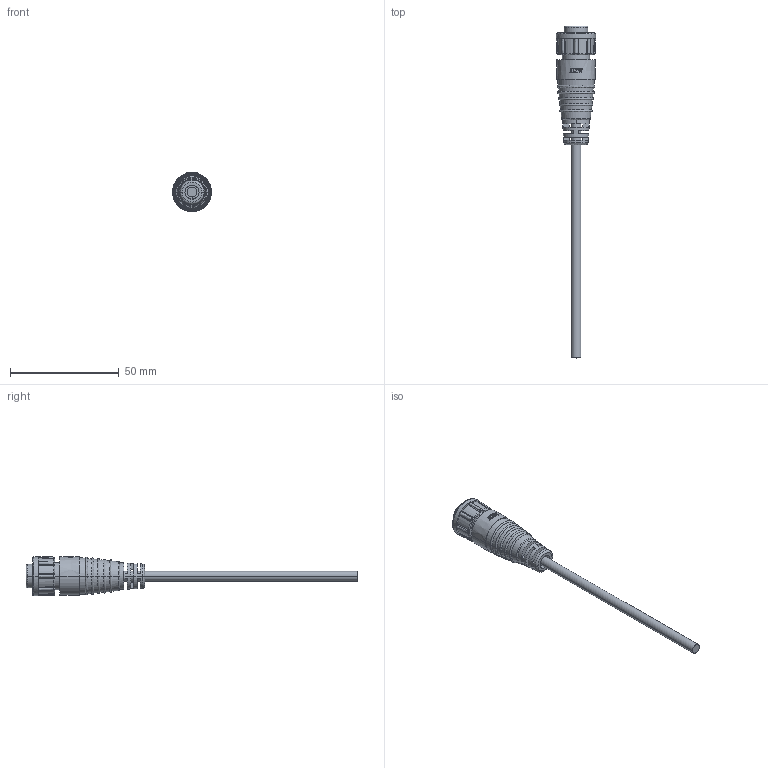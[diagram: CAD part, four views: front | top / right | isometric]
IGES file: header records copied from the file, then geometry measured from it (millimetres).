
Start section:  PTC IGES file: ABD-03AFMM-LL7AXX.igs
Global section: file name: ABD-03AFMM-LL7AXX.igs; native system: Creo Parametric by Parametric Technology Corporation; preprocessor: 2013050; author: LT0787; organization: Unknown; date: 20170719.114502; units: millimetre
Bounding box: 18 x 152.5 x 18.1 mm (x, y, z)
Volume: 9725.9 mm3; surface area: 7016.6 mm2
Topology: 1 solids, 1 shells, 563 faces, 1595 edges, 1028 vertices
Faces by surface type: bspline 290, revolution 217, extrusion 56
